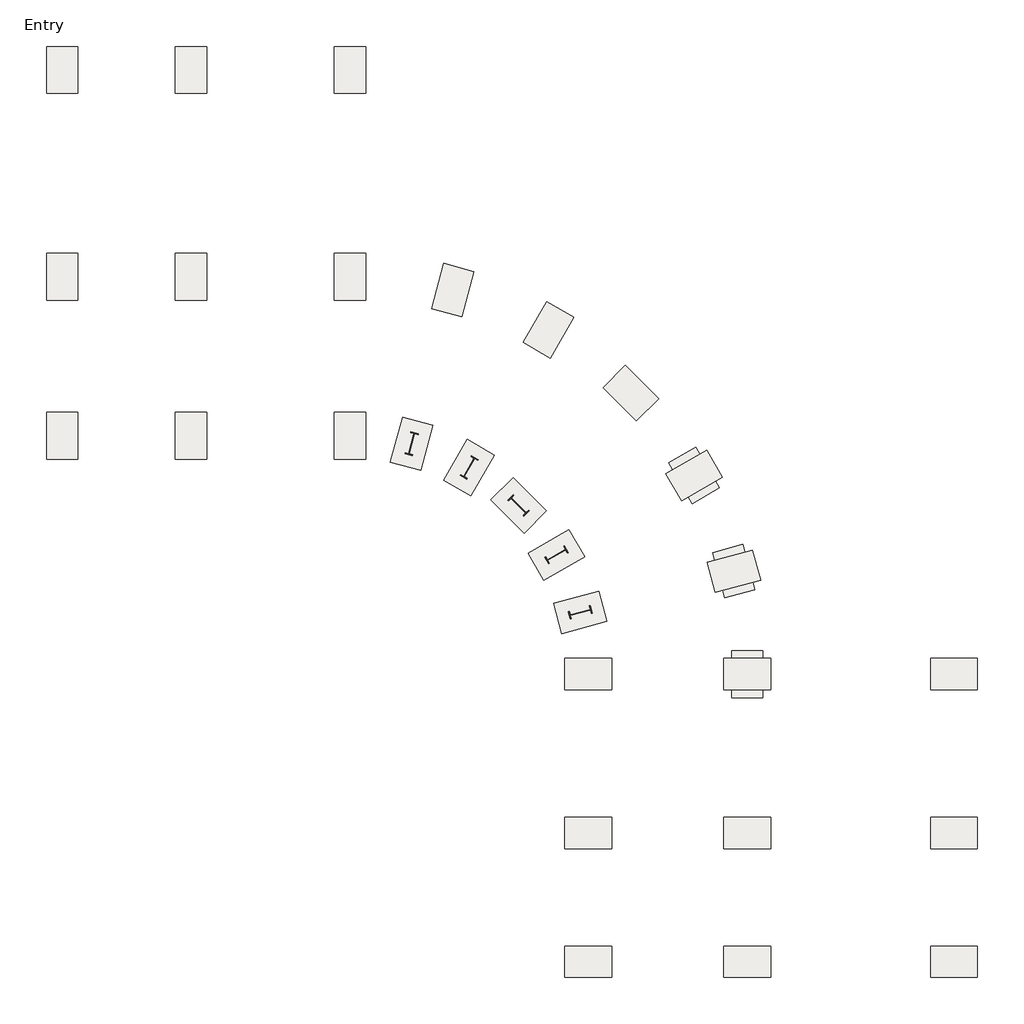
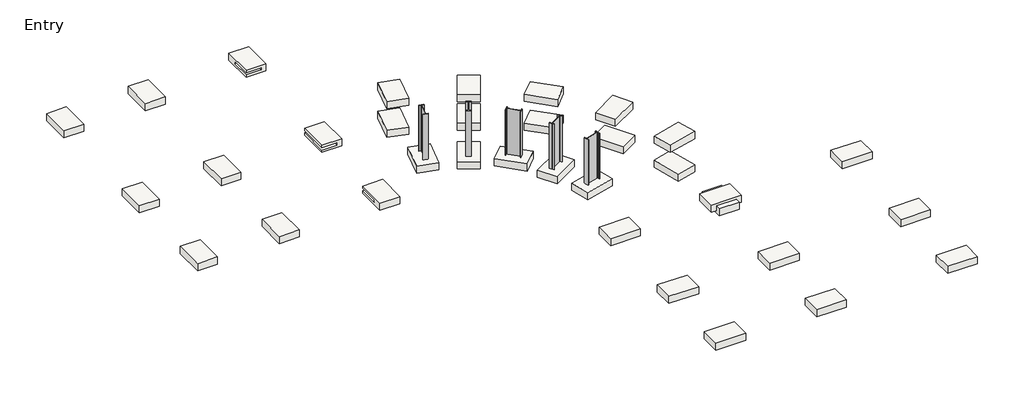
# One storey: 34 slabs, 5 columns.
"""IFC4 building model written with IfcOpenShell, lengths in millimetres."""

from ifc_helpers import new_model, si_unit, frame, origin, place, context, project, spatial, polyline, outline, extrude, faceted_brep, transform, mapped, element, save
from components import w840x251_ab389207, m_footing_rectangular_1800_x_1200_x_450mm_16ba7ea5, m_footing_rectangular_1800_x_1200_x_450mm_a17f5610

model = new_model("IFC4")

# Units and contexts
model_context = context("Model", 3, world=origin())
ifc_project = project(units=[si_unit("LENGTHUNIT", "METRE", prefix="MILLI")], contexts=[model_context])

# Site, building, storey
site = spatial("IfcSite", under=ifc_project)
building = spatial("IfcBuilding", under=site)
storey = spatial("IfcBuildingStorey", under=building, Name="Entry", Elevation=0.0)

# Columns
placement = place(None, origin())
w840x251_shape = w840x251_ab389207(model_context)
element("IfcColumn", 1, ObjectType="M_W-Wide Flange-Column : W840X251", at=placement, inside=storey, context=model_context, shape_type="MappedRepresentation", body=[
    mapped(w840x251_shape, transform((-1676.4777763, -16536.1950481, 0.0), x_axis=(-0.25881904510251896, 0.9659258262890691, 0.0), y_axis=(-0.9659258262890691, -0.25881904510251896, 0.0), z_axis=(0.0, 0.0, 1.0))),
])
element("IfcColumn", 2, ObjectType="M_W-Wide Flange-Column : W840X251", at=placement, inside=storey, context=model_context, shape_type="MappedRepresentation", body=[
    mapped(w840x251_shape, transform((-2589.9672396, -14330.8363965, 0.0), x_axis=(-0.4999999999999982, 0.8660254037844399, 0.0), y_axis=(-0.8660254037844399, -0.4999999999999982, 0.0), z_axis=(0.0, 0.0, 1.0))),
])
element("IfcColumn", 3, ObjectType="M_W-Wide Flange-Column : W840X251", at=placement, inside=storey, context=model_context, shape_type="MappedRepresentation", body=[
    mapped(w840x251_shape, transform((-4043.1191247, -12437.0519893, 0.0), x_axis=(0.7071067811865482, 0.7071067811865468, 0.0), y_axis=(-0.7071067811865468, 0.7071067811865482, 0.0), z_axis=(0.0, 0.0, 1.0))),
])
element("IfcColumn", 4, ObjectType="M_W-Wide Flange-Column : W840X251", at=placement, inside=storey, context=model_context, shape_type="MappedRepresentation", body=[
    mapped(w840x251_shape, transform((-5936.9035319, -10983.9001043, 0.0), x_axis=(0.8660254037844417, -0.49999999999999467, 0.0), y_axis=(0.49999999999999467, 0.8660254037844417, 0.0), z_axis=(0.0, 0.0, 1.0))),
])
element("IfcColumn", 5, ObjectType="M_W-Wide Flange-Column : W840X251", at=placement, inside=storey, context=model_context, shape_type="MappedRepresentation", body=[
    mapped(w840x251_shape, transform((-8142.2621834, -10070.4106409, 0.0), x_axis=(0.9659258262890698, -0.25881904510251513, 0.0), y_axis=(0.25881904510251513, 0.9659258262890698, 0.0), z_axis=(0.0, 0.0, 1.0))),
])

# Slabs
element("IfcSlab", 6, ObjectType="M_Footing-Rectangular : 1800 x 1200 x 450mm", at=placement, inside=storey, context=model_context, shape_type="Brep", body=[
    faceted_brep([(-11108.9035319, 3362.1636035, -1677.0), (-9908.9035319, 3362.1636035, -1677.0), (-9908.9035319, 5162.1636035, -1677.0), (-11108.9035319, 5162.1636035, -1677.0), (-11108.9035319, 3362.1636035, -2127.0), (-11108.9035319, 5162.1636035, -2127.0), (-9908.9035319, 5162.1636035, -2127.0), (-9908.9035319, 3362.1636035, -2127.0), (-11108.9035319, 3362.1636035, -1829.0), (-10208.9035319, 3362.1636035, -1829.0), (-10208.9035319, 3362.1636035, -1979.0), (-11108.9035319, 3362.1636035, -1979.0), (-11108.9035319, 4562.1636035, -1979.0), (-11108.9035319, 4562.1636035, -1829.0), (-10208.9035319, 4562.1636035, -1979.0), (-10208.9035319, 4562.1636035, -1829.0)], [[[0, 1, 2, 3]], [[4, 5, 6, 7]], [[1, 0, 8, 9, 10, 11, 4, 7]], [[2, 1, 7, 6]], [[3, 2, 6, 5]], [[0, 3, 5, 4, 11, 12, 13, 8]], [[14, 12, 11, 10]], [[15, 9, 8, 13]], [[15, 14, 10, 9]], [[14, 15, 13, 12]]]),
])
element("IfcSlab", 7, ObjectType="M_Footing-Rectangular : 1800 x 1200 x 450mm", at=placement, inside=storey, context=model_context, shape_type="Brep", body=[
    faceted_brep([(5331.0964681, -18002.8363965, -1829.0), (4131.0964681, -18002.8363965, -1829.0), (4131.0964681, -18302.8363965, -1829.0), (4131.0964681, -19502.8363965, -1829.0), (4131.0964681, -19802.8363965, -1829.0), (5331.0964681, -19802.8363965, -1829.0), (5331.0964681, -19502.8363965, -1829.0), (5331.0964681, -18302.8363965, -1829.0), (5331.0964681, -18002.8363965, -2279.0), (5331.0964681, -19802.8363965, -2279.0), (4131.0964681, -19802.8363965, -2279.0), (4131.0964681, -18002.8363965, -2279.0)], [[[0, 1, 2, 3, 4, 5, 6, 7]], [[8, 9, 10, 11]], [[1, 0, 8, 11]], [[4, 3, 2, 1, 11, 10]], [[5, 4, 10, 9]], [[0, 7, 6, 5, 9, 8]]]),
])
element("IfcSlab", 8, ObjectType="M_Footing-Rectangular : 1800 x 1200 x 450mm", at=placement, inside=storey, context=model_context, shape_type="SweptSolid", body=[
    extrude(outline(polyline([(-1677.0, -9908.9035319), (-1677.0, -11108.9035319), (-1829.0, -11108.9035319), (-1829.0, -10208.9035319), (-1979.0, -10208.9035319), (-1979.0, -11108.9035319), (-2127.0, -11108.9035319), (-2127.0, -9908.9035319), (-1677.0, -9908.9035319)])), frame((0.0, -4562.8363965, 0.0), z_axis=(0.0, 1.0, 0.0), x_axis=(0.0, 0.0, 1.0)), (0.0, 0.0, 1.0), 1800.0),
])
element("IfcSlab", 9, ObjectType="M_Footing-Rectangular : 1800 x 1200 x 450mm", at=placement, inside=storey, context=model_context, shape_type="Brep", body=[
    faceted_brep([(-9908.9035319, -8858.8363965, -1677.0), (-11108.9035319, -8858.8363965, -1677.0), (-11108.9035319, -10658.8363965, -1677.0), (-9908.9035319, -10658.8363965, -1677.0), (-9908.9035319, -8858.8363965, -2127.0), (-9908.9035319, -10658.8363965, -2127.0), (-11108.9035319, -10658.8363965, -2127.0), (-11108.9035319, -8858.8363965, -2127.0), (-11108.9035319, -8858.8363965, -1979.0), (-10208.9035319, -8858.8363965, -1979.0), (-10208.9035319, -8858.8363965, -1829.0), (-11108.9035319, -8858.8363965, -1829.0), (-11108.9035319, -10058.8363965, -1829.0), (-11108.9035319, -10058.8363965, -1979.0), (-10208.9035319, -10058.8363965, -1979.0), (-10208.9035319, -10058.8363965, -1829.0)], [[[0, 1, 2, 3]], [[4, 5, 6, 7]], [[1, 0, 4, 7, 8, 9, 10, 11]], [[2, 1, 11, 12, 13, 8, 7, 6]], [[3, 2, 6, 5]], [[0, 3, 5, 4]], [[13, 14, 9, 8]], [[10, 15, 12, 11]], [[14, 15, 10, 9]], [[15, 14, 13, 12]]]),
])
element("IfcSlab", 10, ObjectType="M_Footing-Rectangular : 1800 x 1200 x 450mm", at=placement, inside=storey, context=model_context, shape_type="SweptSolid", body=[
    extrude(outline(polyline([(11756.0964681, -19502.8363965), (11756.0964681, -18302.8363965), (13556.0964681, -18302.8363965), (13556.0964681, -19502.8363965), (11756.0964681, -19502.8363965)])), frame((0.0, 0.0, -2127.0), z_axis=(0.0, 0.0, 1.0), x_axis=(1.0, 0.0, 0.0)), (0.0, 0.0, 1.0), 450.0),
])
element("IfcSlab", 11, ObjectType="M_Footing-Rectangular : 1800 x 1200 x 450mm", at=placement, inside=storey, context=model_context, shape_type="SweptSolid", body=[
    extrude(outline(polyline([(-1677.0, 5631.0964681), (-1677.0, 3831.0964681), (-2127.0, 3831.0964681), (-2127.0, 4131.0964681), (-1829.0, 4131.0964681), (-1829.0, 5331.0964681), (-2127.0, 5331.0964681), (-2127.0, 5631.0964681), (-1677.0, 5631.0964681)])), frame((0.0, -19502.8363965, 0.0), z_axis=(0.0, 1.0, 0.0), x_axis=(0.0, 0.0, 1.0)), (0.0, 0.0, 1.0), 1200.0),
])
element("IfcSlab", 12, ObjectType="M_Footing-Rectangular : 1800 x 1200 x 450mm", at=placement, inside=storey, context=model_context, shape_type="SweptSolid", body=[
    extrude(outline(polyline([(-464.9035319, -18302.8363965), (-464.9035319, -19502.8363965), (-2264.9035319, -19502.8363965), (-2264.9035319, -18302.8363965), (-464.9035319, -18302.8363965)])), frame((0.0, 0.0, -2127.0), z_axis=(0.0, 0.0, 1.0), x_axis=(1.0, 0.0, 0.0)), (0.0, 0.0, 1.0), 450.0),
])
m_footing_rectangular_1800_x_1200_x_450mm_shape = m_footing_rectangular_1800_x_1200_x_450mm_16ba7ea5(model_context)
element("IfcSlab", 13, ObjectType="M_Footing-Rectangular : 1800 x 1200 x 450mm", at=placement, inside=storey, context=model_context, shape_type="MappedRepresentation", body=[
    mapped(m_footing_rectangular_1800_x_1200_x_450mm_shape, transform((4211.8060608, -14958.4341491, -1829.0), x_axis=(0.9659258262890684, 0.25881904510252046, 0.0), y_axis=(-0.25881904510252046, 0.9659258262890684, 0.0), z_axis=(0.0, 0.0, 1.0))),
])
element("IfcSlab", 14, ObjectType="M_Footing-Rectangular : 1800 x 1200 x 450mm", at=placement, inside=storey, context=model_context, shape_type="MappedRepresentation", body=[
    mapped(m_footing_rectangular_1800_x_1200_x_450mm_shape, transform((2689.3236218, -11282.8363965, -1829.0), x_axis=(0.8660254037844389, 0.4999999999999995, 0.0), y_axis=(-0.4999999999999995, 0.8660254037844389, 0.0), z_axis=(0.0, 0.0, 1.0))),
])
element("IfcSlab", 15, ObjectType="M_Footing-Rectangular : 1800 x 1200 x 450mm", at=placement, inside=storey, context=model_context, shape_type="MappedRepresentation", body=[
    mapped(m_footing_rectangular_1800_x_1200_x_450mm_shape, transform((267.4038134, -8126.5290512, -1829.0), x_axis=(0.7071067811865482, 0.7071067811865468, 0.0), y_axis=(-0.7071067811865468, 0.7071067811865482, 0.0), z_axis=(0.0, 0.0, 1.0))),
])
element("IfcSlab", 16, ObjectType="M_Footing-Rectangular : 1800 x 1200 x 450mm", at=placement, inside=storey, context=model_context, shape_type="MappedRepresentation", body=[
    mapped(m_footing_rectangular_1800_x_1200_x_450mm_shape, transform((-2888.9035319, -5704.6092428, -1829.0), x_axis=(0.8660254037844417, -0.49999999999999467, 0.0), y_axis=(0.49999999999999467, 0.8660254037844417, 0.0), z_axis=(0.0, 0.0, 1.0))),
])
element("IfcSlab", 17, ObjectType="M_Footing-Rectangular : 1800 x 1200 x 450mm", at=placement, inside=storey, context=model_context, shape_type="MappedRepresentation", body=[
    mapped(m_footing_rectangular_1800_x_1200_x_450mm_shape, transform((-6564.5012845, -4182.1268039, -1829.0), x_axis=(0.9659258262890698, -0.25881904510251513, 0.0), y_axis=(0.25881904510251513, 0.9659258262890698, 0.0), z_axis=(0.0, 0.0, 1.0))),
])
element("IfcSlab", 18, ObjectType="M_Footing-Rectangular : 1800 x 1200 x 450mm", at=placement, inside=storey, context=model_context, shape_type="MappedRepresentation", body=[
    mapped(m_footing_rectangular_1800_x_1200_x_450mm_shape, transform((-1676.4777763, -16536.1950481, 0.0), x_axis=(-0.25881904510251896, 0.9659258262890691, 0.0), y_axis=(-0.9659258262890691, -0.25881904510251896, 0.0), z_axis=(0.0, 0.0, 1.0))),
])
element("IfcSlab", 19, ObjectType="M_Footing-Rectangular : 1800 x 1200 x 450mm", at=placement, inside=storey, context=model_context, shape_type="MappedRepresentation", body=[
    mapped(m_footing_rectangular_1800_x_1200_x_450mm_shape, transform((-2589.9672396, -14330.8363965, 0.0), x_axis=(-0.4999999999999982, 0.8660254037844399, 0.0), y_axis=(-0.8660254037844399, -0.4999999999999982, 0.0), z_axis=(0.0, 0.0, 1.0))),
])
element("IfcSlab", 20, ObjectType="M_Footing-Rectangular : 1800 x 1200 x 450mm", at=placement, inside=storey, context=model_context, shape_type="MappedRepresentation", body=[
    mapped(m_footing_rectangular_1800_x_1200_x_450mm_shape, transform((-4043.1191247, -12437.0519893, 0.0), x_axis=(0.7071067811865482, 0.7071067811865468, 0.0), y_axis=(-0.7071067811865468, 0.7071067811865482, 0.0), z_axis=(0.0, 0.0, 1.0))),
])
element("IfcSlab", 21, ObjectType="M_Footing-Rectangular : 1800 x 1200 x 450mm", at=placement, inside=storey, context=model_context, shape_type="MappedRepresentation", body=[
    mapped(m_footing_rectangular_1800_x_1200_x_450mm_shape, transform((-5936.9035319, -10983.9001043, 0.0), x_axis=(0.8660254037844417, -0.49999999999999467, 0.0), y_axis=(0.49999999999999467, 0.8660254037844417, 0.0), z_axis=(0.0, 0.0, 1.0))),
])
element("IfcSlab", 22, ObjectType="M_Footing-Rectangular : 1800 x 1200 x 450mm", at=placement, inside=storey, context=model_context, shape_type="MappedRepresentation", body=[
    mapped(m_footing_rectangular_1800_x_1200_x_450mm_shape, transform((-8142.2621834, -10070.4106409, 0.0), x_axis=(0.9659258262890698, -0.25881904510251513, 0.0), y_axis=(0.25881904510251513, 0.9659258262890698, 0.0), z_axis=(0.0, 0.0, 1.0))),
])
element("IfcSlab", 23, ObjectType="M_Footing-Rectangular : 1800 x 1200 x 450mm", at=placement, inside=storey, context=model_context, shape_type="MappedRepresentation", body=[
    mapped(m_footing_rectangular_1800_x_1200_x_450mm_shape, transform((4211.8060608, -14958.4341491, 0.0), x_axis=(-0.25881904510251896, 0.9659258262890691, 0.0), y_axis=(-0.9659258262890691, -0.25881904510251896, 0.0), z_axis=(0.0, 0.0, 1.0))),
])
element("IfcSlab", 24, ObjectType="M_Footing-Rectangular : 1800 x 1200 x 450mm", at=placement, inside=storey, context=model_context, shape_type="MappedRepresentation", body=[
    mapped(m_footing_rectangular_1800_x_1200_x_450mm_shape, transform((2689.3236218, -11282.8363965, 0.0), x_axis=(-0.4999999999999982, 0.8660254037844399, 0.0), y_axis=(-0.8660254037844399, -0.4999999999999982, 0.0), z_axis=(0.0, 0.0, 1.0))),
])
element("IfcSlab", 25, ObjectType="M_Footing-Rectangular : 1800 x 1200 x 450mm", at=placement, inside=storey, context=model_context, shape_type="MappedRepresentation", body=[
    mapped(m_footing_rectangular_1800_x_1200_x_450mm_shape, transform((267.4038134, -8126.5290512, 0.0), x_axis=(0.7071067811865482, 0.7071067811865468, 0.0), y_axis=(-0.7071067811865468, 0.7071067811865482, 0.0), z_axis=(0.0, 0.0, 1.0))),
])
element("IfcSlab", 26, ObjectType="M_Footing-Rectangular : 1800 x 1200 x 450mm", at=placement, inside=storey, context=model_context, shape_type="MappedRepresentation", body=[
    mapped(m_footing_rectangular_1800_x_1200_x_450mm_shape, transform((-2888.9035319, -5704.6092428, 0.0), x_axis=(0.8660254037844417, -0.49999999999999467, 0.0), y_axis=(0.49999999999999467, 0.8660254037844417, 0.0), z_axis=(0.0, 0.0, 1.0))),
])
element("IfcSlab", 27, ObjectType="M_Footing-Rectangular : 1800 x 1200 x 450mm", at=placement, inside=storey, context=model_context, shape_type="MappedRepresentation", body=[
    mapped(m_footing_rectangular_1800_x_1200_x_450mm_shape, transform((-6564.5012845, -4182.1268039, 0.0), x_axis=(0.9659258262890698, -0.25881904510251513, 0.0), y_axis=(0.25881904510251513, 0.9659258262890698, 0.0), z_axis=(0.0, 0.0, 1.0))),
])
element("IfcSlab", 28, ObjectType="M_Footing-Rectangular : 1800 x 1200 x 450mm", at=placement, inside=storey, context=model_context, shape_type="MappedRepresentation", body=[
    mapped(m_footing_rectangular_1800_x_1200_x_450mm_shape, transform((-16604.9035319, 4262.1636035, -1677.0), x_axis=(-1.0, 0.0, 0.0), y_axis=(0.0, -1.0, 0.0), z_axis=(0.0, 0.0, 1.0))),
])
element("IfcSlab", 29, ObjectType="M_Footing-Rectangular : 1800 x 1200 x 450mm", at=placement, inside=storey, context=model_context, shape_type="MappedRepresentation", body=[
    mapped(m_footing_rectangular_1800_x_1200_x_450mm_shape, transform((-21544.300634, 4262.1636035, -1677.0), x_axis=(-1.0, 0.0, 0.0), y_axis=(0.0, -1.0, 0.0), z_axis=(0.0, 0.0, 1.0))),
])
element("IfcSlab", 30, ObjectType="M_Footing-Rectangular : 1800 x 1200 x 450mm", at=placement, inside=storey, context=model_context, shape_type="MappedRepresentation", body=[
    mapped(m_footing_rectangular_1800_x_1200_x_450mm_shape, transform((-16604.9035319, -3662.8363965, -1677.0), x_axis=(-1.0, 0.0, 0.0), y_axis=(0.0, -1.0, 0.0), z_axis=(0.0, 0.0, 1.0))),
])
element("IfcSlab", 31, ObjectType="M_Footing-Rectangular : 1800 x 1200 x 450mm", at=placement, inside=storey, context=model_context, shape_type="MappedRepresentation", body=[
    mapped(m_footing_rectangular_1800_x_1200_x_450mm_shape, transform((-21544.300634, -3662.8363965, -1677.0), x_axis=(-1.0, 0.0, 0.0), y_axis=(0.0, -1.0, 0.0), z_axis=(0.0, 0.0, 1.0))),
])
element("IfcSlab", 32, ObjectType="M_Footing-Rectangular : 1800 x 1200 x 450mm", at=placement, inside=storey, context=model_context, shape_type="MappedRepresentation", body=[
    mapped(m_footing_rectangular_1800_x_1200_x_450mm_shape, transform((-16604.9035319, -9758.8363965, -1677.0), x_axis=(-1.0, 0.0, 0.0), y_axis=(0.0, -1.0, 0.0), z_axis=(0.0, 0.0, 1.0))),
])
element("IfcSlab", 33, ObjectType="M_Footing-Rectangular : 1800 x 1200 x 450mm", at=placement, inside=storey, context=model_context, shape_type="MappedRepresentation", body=[
    mapped(m_footing_rectangular_1800_x_1200_x_450mm_shape, transform((-21544.300634, -9758.8363965, -1677.0), x_axis=(-1.0, 0.0, 0.0), y_axis=(0.0, -1.0, 0.0), z_axis=(0.0, 0.0, 1.0))),
])
m_footing_rectangular_1800_x_1200_x_450mm_2_shape = m_footing_rectangular_1800_x_1200_x_450mm_a17f5610(model_context)
element("IfcSlab", 34, ObjectType="M_Footing-Rectangular : 1800 x 1200 x 450mm", at=placement, inside=storey, context=model_context, shape_type="MappedRepresentation", body=[
    mapped(m_footing_rectangular_1800_x_1200_x_450mm_2_shape, transform((12656.0964681, -24998.8363965, -1677.0), x_axis=(0.0, -1.0, 0.0), y_axis=(1.0, 0.0, 0.0), z_axis=(0.0, 0.0, 1.0))),
])
element("IfcSlab", 35, ObjectType="M_Footing-Rectangular : 1800 x 1200 x 450mm", at=placement, inside=storey, context=model_context, shape_type="MappedRepresentation", body=[
    mapped(m_footing_rectangular_1800_x_1200_x_450mm_2_shape, transform((12656.0964681, -29938.2334986, -1677.0), x_axis=(0.0, -1.0, 0.0), y_axis=(1.0, 0.0, 0.0), z_axis=(0.0, 0.0, 1.0))),
])
element("IfcSlab", 36, ObjectType="M_Footing-Rectangular : 1800 x 1200 x 450mm", at=placement, inside=storey, context=model_context, shape_type="MappedRepresentation", body=[
    mapped(m_footing_rectangular_1800_x_1200_x_450mm_2_shape, transform((4731.0964681, -24998.8363965, -1677.0), x_axis=(0.0, -1.0, 0.0), y_axis=(1.0, 0.0, 0.0), z_axis=(0.0, 0.0, 1.0))),
])
element("IfcSlab", 37, ObjectType="M_Footing-Rectangular : 1800 x 1200 x 450mm", at=placement, inside=storey, context=model_context, shape_type="MappedRepresentation", body=[
    mapped(m_footing_rectangular_1800_x_1200_x_450mm_2_shape, transform((4731.0964681, -29938.2334986, -1677.0), x_axis=(0.0, -1.0, 0.0), y_axis=(1.0, 0.0, 0.0), z_axis=(0.0, 0.0, 1.0))),
])
element("IfcSlab", 38, ObjectType="M_Footing-Rectangular : 1800 x 1200 x 450mm", at=placement, inside=storey, context=model_context, shape_type="MappedRepresentation", body=[
    mapped(m_footing_rectangular_1800_x_1200_x_450mm_2_shape, transform((-1364.9035319, -24998.8363965, -1677.0), x_axis=(0.0, -1.0, 0.0), y_axis=(1.0, 0.0, 0.0), z_axis=(0.0, 0.0, 1.0))),
])
element("IfcSlab", 39, ObjectType="M_Footing-Rectangular : 1800 x 1200 x 450mm", at=placement, inside=storey, context=model_context, shape_type="MappedRepresentation", body=[
    mapped(m_footing_rectangular_1800_x_1200_x_450mm_2_shape, transform((-1364.9035319, -29938.2334986, -1677.0), x_axis=(0.0, -1.0, 0.0), y_axis=(1.0, 0.0, 0.0), z_axis=(0.0, 0.0, 1.0))),
])

save(model, "model.ifc")
